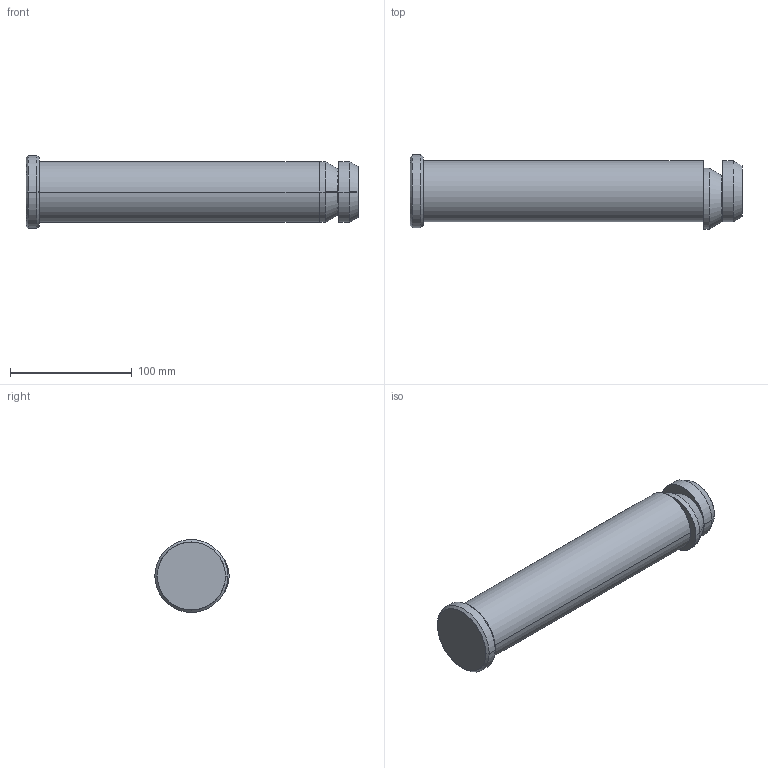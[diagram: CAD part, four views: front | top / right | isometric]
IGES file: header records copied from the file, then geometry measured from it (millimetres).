
Start section: START RECORD GO HERE.
Global section: file name: 395W-050-273.igs; native system: DASSAULT SYSTEMES CATIA V5 R20 - www.3ds.com; preprocessor: CATIA Version 5 Release 20 ; author: Utente; organization: NB04-ASUS; date: 20200410.165606; units: millimetre
Bounding box: 273 x 61.01 x 60 mm (x, y, z)
Surface area: 54720.1 mm2 (no closed solid volume)
Topology: 0 solids, 0 shells, 27 faces, 116 edges, 116 vertices
Faces by surface type: revolution 20, extrusion 7
